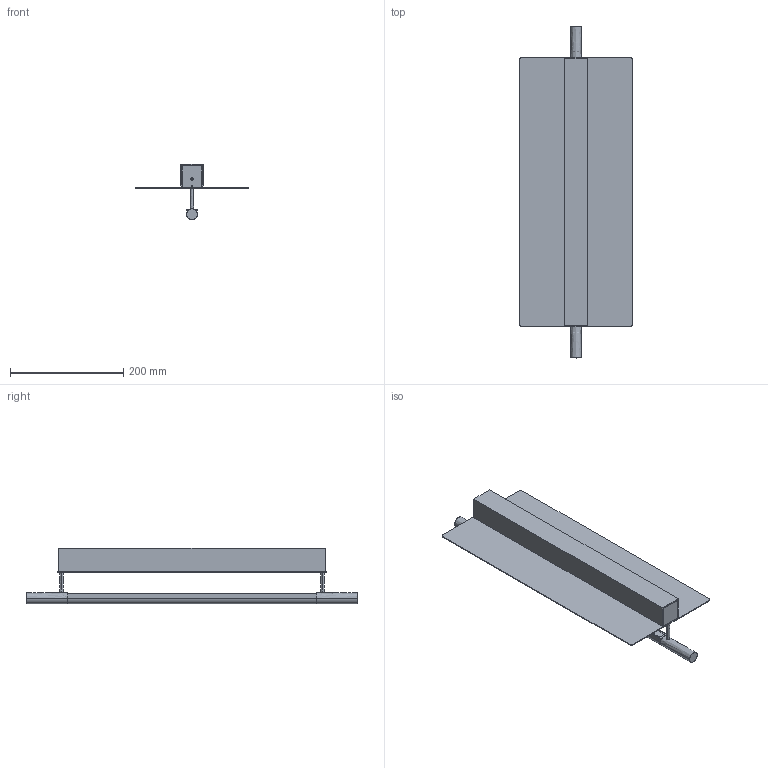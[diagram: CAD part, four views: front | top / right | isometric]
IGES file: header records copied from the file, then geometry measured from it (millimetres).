
Start section: SolidWorks IGES file using analytic representation for surfaces
Global section: file name: C:\SANTACOLE_PDM\Proyectos Catálogo\PROD-P21-004 -- LAMINA VERTICAL\6_Técnico comercial\3D\IGES\Lamina Plana aplique.IGS; native system: SolidWorks 2021; preprocessor: SolidWorks 2021; author: clara.galimany; date: 221219.103514; units: millimetre
Bounding box: 198.4 x 587 x 97.59 mm (x, y, z)
Surface area: 393287.9 mm2 (no closed solid volume)
Topology: 0 solids, 0 shells, 545 faces, 5343 edges, 5343 vertices
Faces by surface type: bspline 435, revolution 110
